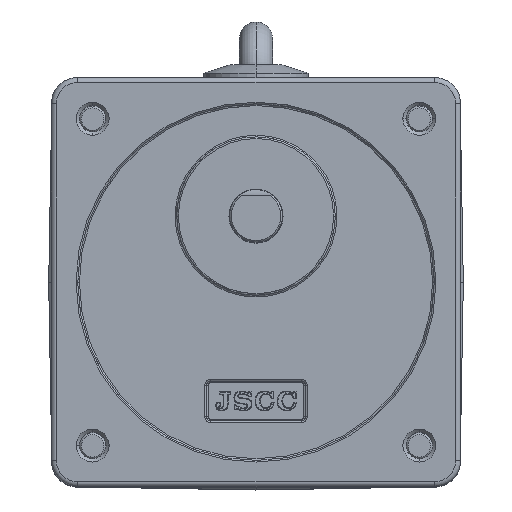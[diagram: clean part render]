
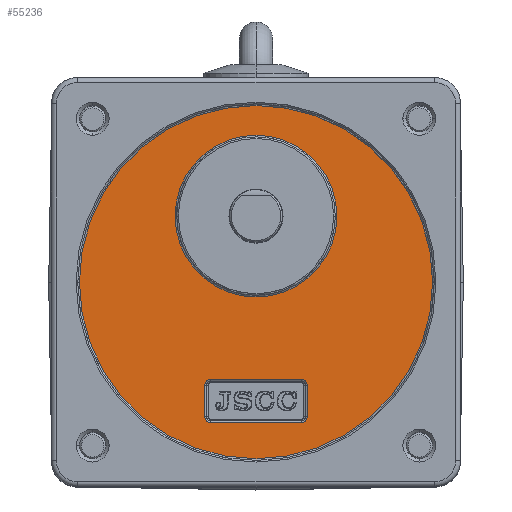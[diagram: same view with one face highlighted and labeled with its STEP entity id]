
A CAD part, top view. The second image highlights one B-rep face of the part: STEP entity #55236.
In plain terms, the highlighted planar face has unit normal (0, 0, 1).
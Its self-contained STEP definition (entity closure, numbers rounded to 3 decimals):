
#52921=CARTESIAN_POINT('',(6.9,14.75,41.2));
#52922=VERTEX_POINT('',#52921);
#52931=CARTESIAN_POINT('',(-6.9,14.75,41.2));
#52932=VERTEX_POINT('',#52931);
#52940=CARTESIAN_POINT('',(-6.9,14.75,41.2));
#52941=DIRECTION('',(1.,0.,0.));
#52942=VECTOR('',#52941,13.8);
#52943=LINE('',#52940,#52942);
#52944=EDGE_CURVE('',#52932,#52922,#52943,.T.);
#52954=CARTESIAN_POINT('',(7.75,15.6,41.2));
#52955=VERTEX_POINT('',#52954);
#52965=CARTESIAN_POINT('',(6.9,15.6,41.2));
#52966=DIRECTION('',(0.,-1.,0.));
#52967=DIRECTION('',(0.,-0.,1.));
#52968=AXIS2_PLACEMENT_3D('',#52965,#52967,#52966);
#52969=CIRCLE('',#52968,0.85);
#52970=EDGE_CURVE('',#52922,#52955,#52969,.T.);
#52980=CARTESIAN_POINT('',(7.75,20.4,41.2));
#52981=VERTEX_POINT('',#52980);
#52991=CARTESIAN_POINT('',(7.75,15.6,41.2));
#52992=DIRECTION('',(0.,1.,0.));
#52993=VECTOR('',#52992,4.8);
#52994=LINE('',#52991,#52993);
#52995=EDGE_CURVE('',#52955,#52981,#52994,.T.);
#53005=CARTESIAN_POINT('',(6.9,21.25,41.2));
#53006=VERTEX_POINT('',#53005);
#53016=CARTESIAN_POINT('',(6.9,20.4,41.2));
#53017=DIRECTION('',(1.,0.,0.));
#53018=DIRECTION('',(0.,0.,1.));
#53019=AXIS2_PLACEMENT_3D('',#53016,#53018,#53017);
#53020=CIRCLE('',#53019,0.85);
#53021=EDGE_CURVE('',#52981,#53006,#53020,.T.);
#53031=CARTESIAN_POINT('',(-6.9,21.25,41.2));
#53032=VERTEX_POINT('',#53031);
#53042=CARTESIAN_POINT('',(6.9,21.25,41.2));
#53043=DIRECTION('',(-1.,0.,0.));
#53044=VECTOR('',#53043,13.8);
#53045=LINE('',#53042,#53044);
#53046=EDGE_CURVE('',#53006,#53032,#53045,.T.);
#53056=CARTESIAN_POINT('',(-7.75,20.4,41.2));
#53057=VERTEX_POINT('',#53056);
#53067=CARTESIAN_POINT('',(-6.9,20.4,41.2));
#53068=DIRECTION('',(0.,1.,0.));
#53069=DIRECTION('',(0.,0.,1.));
#53070=AXIS2_PLACEMENT_3D('',#53067,#53069,#53068);
#53071=CIRCLE('',#53070,0.85);
#53072=EDGE_CURVE('',#53032,#53057,#53071,.T.);
#53082=CARTESIAN_POINT('',(-7.75,15.6,41.2));
#53083=VERTEX_POINT('',#53082);
#53093=CARTESIAN_POINT('',(-7.75,20.4,41.2));
#53094=DIRECTION('',(0.,-1.,0.));
#53095=VECTOR('',#53094,4.8);
#53096=LINE('',#53093,#53095);
#53097=EDGE_CURVE('',#53057,#53083,#53096,.T.);
#53110=CARTESIAN_POINT('',(-6.9,15.6,41.2));
#53111=DIRECTION('',(-1.,0.,0.));
#53112=DIRECTION('',(0.,0.,1.));
#53113=AXIS2_PLACEMENT_3D('',#53110,#53112,#53111);
#53114=CIRCLE('',#53113,0.85);
#53115=EDGE_CURVE('',#53083,#52932,#53114,.T.);
#53371=CARTESIAN_POINT('',(-12.25,-10.,41.2));
#53372=VERTEX_POINT('',#53371);
#53382=CARTESIAN_POINT('',(12.25,-10.,41.2));
#53383=VERTEX_POINT('',#53382);
#53391=CARTESIAN_POINT('',(0.,-10.,41.2));
#53392=DIRECTION('',(1.,0.,0.));
#53393=DIRECTION('',(0.,0.,1.));
#53394=AXIS2_PLACEMENT_3D('',#53391,#53393,#53392);
#53395=CIRCLE('',#53394,12.25);
#53396=EDGE_CURVE('',#53383,#53372,#53395,.T.);
#53410=CARTESIAN_POINT('',(0.,-10.,41.2));
#53411=DIRECTION('',(-1.,0.,0.));
#53412=DIRECTION('',(-0.,0.,1.));
#53413=AXIS2_PLACEMENT_3D('',#53410,#53412,#53411);
#53414=CIRCLE('',#53413,12.25);
#53415=EDGE_CURVE('',#53372,#53383,#53414,.T.);
#55177=CARTESIAN_POINT('',(26.75,0.,41.2));
#55178=VERTEX_POINT('',#55177);
#55188=CARTESIAN_POINT('',(-26.75,0.,41.2));
#55189=VERTEX_POINT('',#55188);
#55197=CARTESIAN_POINT('',(0.,0.,41.2));
#55198=DIRECTION('',(-1.,0.,0.));
#55199=DIRECTION('',(0.,0.,-1.));
#55200=AXIS2_PLACEMENT_3D('',#55197,#55199,#55198);
#55201=CIRCLE('',#55200,26.75);
#55202=EDGE_CURVE('',#55189,#55178,#55201,.T.);
#55207=CARTESIAN_POINT('',(0.,0.,41.2));
#55208=DIRECTION('',(1.,0.,0.));
#55209=DIRECTION('',(0.,0.,1.));
#55210=AXIS2_PLACEMENT_3D('',#55207,#55209,#55208);
#55211=PLANE('',#55210);
#55212=ORIENTED_EDGE('',*,*,#55202,.F.);
#55213=CARTESIAN_POINT('',(0.,0.,41.2));
#55214=DIRECTION('',(-1.,0.,0.));
#55215=DIRECTION('',(0.,0.,1.));
#55216=AXIS2_PLACEMENT_3D('',#55213,#55215,#55214);
#55217=CIRCLE('',#55216,26.75);
#55218=EDGE_CURVE('',#55189,#55178,#55217,.T.);
#55219=ORIENTED_EDGE('E358',*,*,#55218,.T.);
#55220=EDGE_LOOP('',(#55212,#55219));
#55221=FACE_OUTER_BOUND('',#55220,.T.);
#55222=ORIENTED_EDGE('',*,*,#53097,.F.);
#55223=ORIENTED_EDGE('',*,*,#53072,.F.);
#55224=ORIENTED_EDGE('',*,*,#53046,.F.);
#55225=ORIENTED_EDGE('',*,*,#53021,.F.);
#55226=ORIENTED_EDGE('',*,*,#52995,.F.);
#55227=ORIENTED_EDGE('',*,*,#52970,.F.);
#55228=ORIENTED_EDGE('',*,*,#52944,.F.);
#55229=ORIENTED_EDGE('',*,*,#53115,.F.);
#55230=EDGE_LOOP('',(#55222,#55223,#55224,#55225,#55226,#55227,#55228,#55229));
#55231=FACE_BOUND('',#55230,.T.);
#55232=ORIENTED_EDGE('',*,*,#53396,.F.);
#55233=ORIENTED_EDGE('',*,*,#53415,.F.);
#55234=EDGE_LOOP('',(#55232,#55233));
#55235=FACE_BOUND('',#55234,.T.);
#55236=ADVANCED_FACE('F148',(#55221,#55231,#55235),#55211,.T.);
